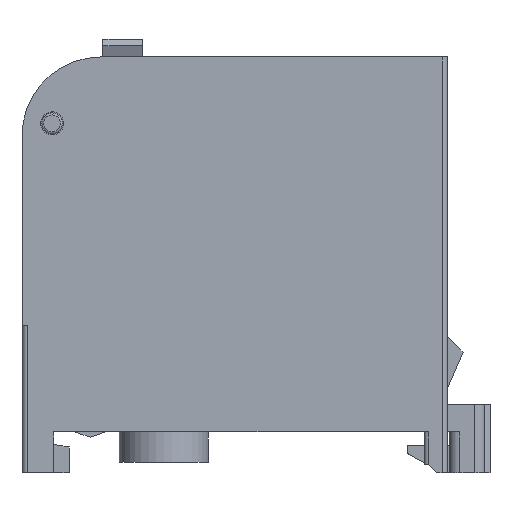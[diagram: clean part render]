
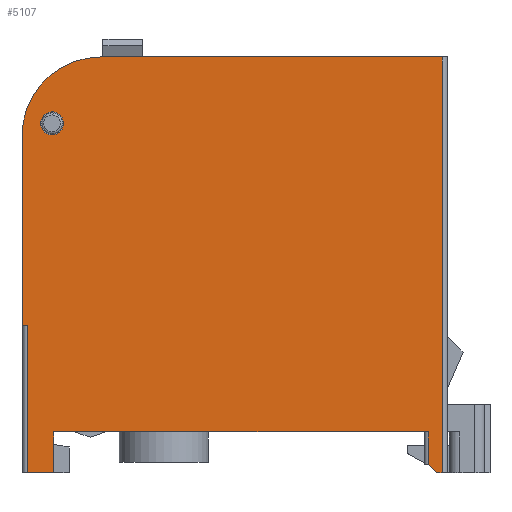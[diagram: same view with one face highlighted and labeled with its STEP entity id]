
A CAD part, left-side view. The second image highlights one B-rep face of the part: STEP entity #5107.
In plain terms, the highlighted planar face has unit normal (-1, 0, 0).
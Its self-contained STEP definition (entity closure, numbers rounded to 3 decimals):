
#4584=PLANE('',#16347);
#4930=FACE_BOUND('',#6483,.T.);
#4931=FACE_BOUND('',#6484,.T.);
#5107=ADVANCED_FACE('',(#4930,#4931),#4584,.T.);
#6483=EDGE_LOOP('',(#8048,#8049,#8050,#8051,#8052,#8053,#8054,#8055,#8056,
#8057,#8058,#8059));
#6484=EDGE_LOOP('',(#8060));
#7055=CIRCLE('',#16307,1.1);
#7059=CIRCLE('',#16346,7.5);
#8048=ORIENTED_EDGE('',*,*,#12298,.F.);
#8049=ORIENTED_EDGE('',*,*,#11879,.F.);
#8050=ORIENTED_EDGE('',*,*,#12300,.F.);
#8051=ORIENTED_EDGE('',*,*,#12301,.T.);
#8052=ORIENTED_EDGE('',*,*,#11904,.F.);
#8053=ORIENTED_EDGE('',*,*,#12302,.F.);
#8054=ORIENTED_EDGE('',*,*,#12303,.T.);
#8055=ORIENTED_EDGE('',*,*,#12304,.F.);
#8056=ORIENTED_EDGE('',*,*,#12305,.T.);
#8057=ORIENTED_EDGE('',*,*,#12306,.T.);
#8058=ORIENTED_EDGE('',*,*,#12307,.T.);
#8059=ORIENTED_EDGE('',*,*,#12308,.T.);
#8060=ORIENTED_EDGE('',*,*,#12234,.T.);
#10784=VERTEX_POINT('',#20506);
#10785=VERTEX_POINT('',#20507);
#10803=VERTEX_POINT('',#20555);
#10805=VERTEX_POINT('',#20558);
#11048=VERTEX_POINT('',#21214);
#11080=VERTEX_POINT('',#21344);
#11081=VERTEX_POINT('',#21348);
#11082=VERTEX_POINT('',#21351);
#11083=VERTEX_POINT('',#21353);
#11084=VERTEX_POINT('',#21355);
#11085=VERTEX_POINT('',#21357);
#11086=VERTEX_POINT('',#21359);
#11087=VERTEX_POINT('',#21361);
#11879=EDGE_CURVE('',#10784,#10785,#13562,.T.);
#11904=EDGE_CURVE('',#10803,#10805,#13585,.T.);
#12234=EDGE_CURVE('',#11048,#11048,#7055,.T.);
#12298=EDGE_CURVE('',#10785,#11080,#13938,.T.);
#12300=EDGE_CURVE('',#11081,#10784,#7059,.T.);
#12301=EDGE_CURVE('',#11081,#10805,#13939,.T.);
#12302=EDGE_CURVE('',#11082,#10803,#13940,.T.);
#12303=EDGE_CURVE('',#11082,#11083,#13941,.T.);
#12304=EDGE_CURVE('',#11084,#11083,#13942,.T.);
#12305=EDGE_CURVE('',#11084,#11085,#13943,.T.);
#12306=EDGE_CURVE('',#11085,#11086,#13944,.T.);
#12307=EDGE_CURVE('',#11086,#11087,#13945,.T.);
#12308=EDGE_CURVE('',#11087,#11080,#13946,.T.);
#13562=LINE('',#20505,#14899);
#13585=LINE('',#20557,#14922);
#13938=LINE('',#21343,#15275);
#13939=LINE('',#21349,#15276);
#13940=LINE('',#21350,#15277);
#13941=LINE('',#21352,#15278);
#13942=LINE('',#21354,#15279);
#13943=LINE('',#21356,#15280);
#13944=LINE('',#21358,#15281);
#13945=LINE('',#21360,#15282);
#13946=LINE('',#21362,#15283);
#14899=VECTOR('',#17204,1.);
#14922=VECTOR('',#17243,1.);
#15275=VECTOR('',#17912,1.);
#15276=VECTOR('',#17919,1.);
#15277=VECTOR('',#17920,1.);
#15278=VECTOR('',#17921,1.);
#15279=VECTOR('',#17922,1.);
#15280=VECTOR('',#17923,1.);
#15281=VECTOR('',#17924,1.);
#15282=VECTOR('',#17925,1.);
#15283=VECTOR('',#17926,1.);
#16307=AXIS2_PLACEMENT_3D('',#21213,#17777,#17778);
#16346=AXIS2_PLACEMENT_3D('',#21347,#17917,#17918);
#16347=AXIS2_PLACEMENT_3D('',#21363,#17927,#17928);
#17204=DIRECTION('',(0.,-1.,0.));
#17243=DIRECTION('',(0.,1.,0.));
#17777=DIRECTION('',(1.,0.,0.));
#17778=DIRECTION('',(0.,1.,0.));
#17912=DIRECTION('',(0.,0.,-1.));
#17917=DIRECTION('',(1.,0.,0.));
#17918=DIRECTION('',(0.,0.,1.));
#17919=DIRECTION('',(0.,0.,-1.));
#17920=DIRECTION('',(0.,0.,1.));
#17921=DIRECTION('',(0.,-1.,0.));
#17922=DIRECTION('',(0.,0.,-1.));
#17923=DIRECTION('',(0.,-1.,0.));
#17924=DIRECTION('',(0.,0.,-1.));
#17925=DIRECTION('',(0.,-0.707,-0.707));
#17926=DIRECTION('',(0.,-1.,0.));
#17927=DIRECTION('',(-1.,0.,0.));
#17928=DIRECTION('',(0.,1.,0.));
#20505=CARTESIAN_POINT('',(-80.,12.75,12.8));
#20506=CARTESIAN_POINT('',(-80.,12.75,12.8));
#20507=CARTESIAN_POINT('',(-80.,-19.75,12.8));
#20555=CARTESIAN_POINT('',(-80.,19.75,-12.8));
#20557=CARTESIAN_POINT('',(-80.,-19.75,-12.8));
#20558=CARTESIAN_POINT('',(-80.,20.25,-12.8));
#21213=CARTESIAN_POINT('',(-80.,17.387,6.477));
#21214=CARTESIAN_POINT('',(-80.,16.287,6.477));
#21343=CARTESIAN_POINT('',(-80.,-19.75,10.05));
#21344=CARTESIAN_POINT('',(-80.,-19.75,-26.8));
#21347=CARTESIAN_POINT('',(-80.,12.75,5.3));
#21348=CARTESIAN_POINT('',(-80.,20.25,5.3));
#21349=CARTESIAN_POINT('',(-80.,20.25,-0.36));
#21350=CARTESIAN_POINT('',(-80.,19.75,-26.8));
#21351=CARTESIAN_POINT('',(-80.,19.75,-26.8));
#21352=CARTESIAN_POINT('',(-80.,19.75,-26.8));
#21353=CARTESIAN_POINT('',(-80.,17.25,-26.8));
#21354=CARTESIAN_POINT('',(-80.,17.25,-22.9));
#21355=CARTESIAN_POINT('',(-80.,17.25,-22.9));
#21356=CARTESIAN_POINT('',(-80.,17.25,-22.9));
#21357=CARTESIAN_POINT('',(-80.,-18.45,-22.9));
#21358=CARTESIAN_POINT('',(-80.,-18.45,-22.9));
#21359=CARTESIAN_POINT('',(-80.,-18.45,-26.));
#21360=CARTESIAN_POINT('',(-80.,-18.45,-26.));
#21361=CARTESIAN_POINT('',(-80.,-19.25,-26.8));
#21362=CARTESIAN_POINT('',(-80.,-19.25,-26.8));
#21363=CARTESIAN_POINT('',(-80.,-0.546,-0.36));
